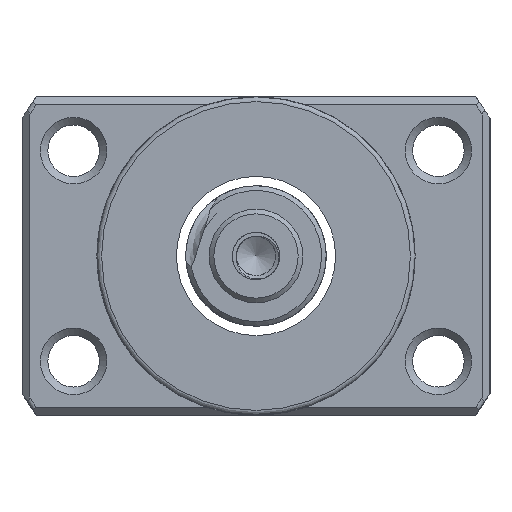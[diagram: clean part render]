
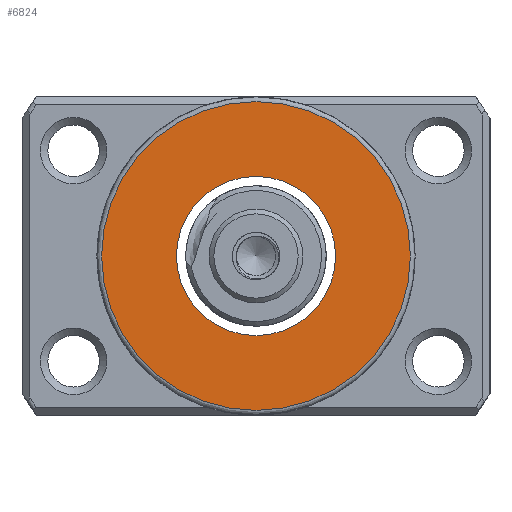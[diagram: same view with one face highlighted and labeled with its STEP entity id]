
A CAD part, left-side view. The second image highlights one B-rep face of the part: STEP entity #6824.
In plain terms, the highlighted planar face has unit normal (-1, 0, 0).
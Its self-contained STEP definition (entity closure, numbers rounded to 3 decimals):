
#1853 = DIRECTION ( 'NONE',  ( -1., 0., 0. ) ) ;
#1921 = CARTESIAN_POINT ( 'NONE',  ( -53.324, 0., 0. ) ) ;
#2534 = VERTEX_POINT ( 'NONE', #9103 ) ;
#4101 = AXIS2_PLACEMENT_3D ( 'NONE', #6781, #9886, #7823 ) ;
#4144 = DIRECTION ( 'NONE',  ( 0., 0., 1. ) ) ;
#5070 = AXIS2_PLACEMENT_3D ( 'NONE', #11391, #1853, #4144 ) ;
#5666 = CIRCLE ( 'NONE', #6980, 16.5 ) ;
#6164 = DIRECTION ( 'NONE',  ( 0., 0., 1. ) ) ;
#6781 = CARTESIAN_POINT ( 'NONE',  ( -53.324, 0., 0. ) ) ;
#6824 = ADVANCED_FACE ( 'NONE', ( #13329, #11322 ), #7196, .T. ) ;
#6951 = EDGE_LOOP ( 'NONE', ( #11937 ) ) ;
#6980 = AXIS2_PLACEMENT_3D ( 'NONE', #1921, #8302, #6164 ) ;
#7196 = PLANE ( 'NONE',  #5070 ) ;
#7823 = DIRECTION ( 'NONE',  ( 0., 0., 1. ) ) ;
#8302 = DIRECTION ( 'NONE',  ( -1., 0., 0. ) ) ;
#8835 = ORIENTED_EDGE ( 'NONE', *, *, #10950, .T. ) ;
#9103 = CARTESIAN_POINT ( 'NONE',  ( -53.324, 0., 8.5 ) ) ;
#9401 = CIRCLE ( 'NONE', #4101, 8.5 ) ;
#9886 = DIRECTION ( 'NONE',  ( -1., 0., 0. ) ) ;
#10390 = EDGE_LOOP ( 'NONE', ( #8835 ) ) ;
#10950 = EDGE_CURVE ( 'NONE', #11040, #11040, #5666, .T. ) ;
#11040 = VERTEX_POINT ( 'NONE', #13169 ) ;
#11322 = FACE_BOUND ( 'NONE', #6951, .T. ) ;
#11391 = CARTESIAN_POINT ( 'NONE',  ( -53.324, 8.5, 0. ) ) ;
#11937 = ORIENTED_EDGE ( 'NONE', *, *, #12692, .F. ) ;
#12692 = EDGE_CURVE ( 'NONE', #2534, #2534, #9401, .T. ) ;
#13169 = CARTESIAN_POINT ( 'NONE',  ( -53.324, 0., 16.5 ) ) ;
#13329 = FACE_OUTER_BOUND ( 'NONE', #10390, .T. ) ;
